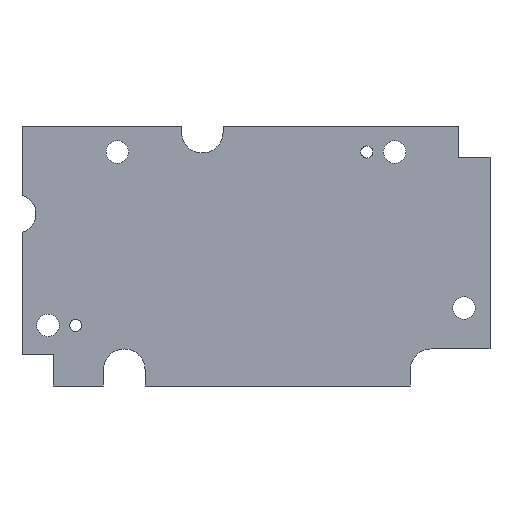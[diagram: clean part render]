
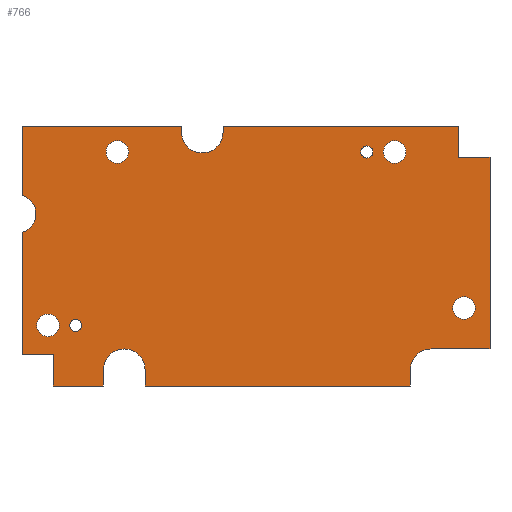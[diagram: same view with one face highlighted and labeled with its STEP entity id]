
A CAD part, front view. The second image highlights one B-rep face of the part: STEP entity #766.
In plain terms, the highlighted planar face has unit normal (0, -1, 0).
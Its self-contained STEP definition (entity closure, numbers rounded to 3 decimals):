
#137=CARTESIAN_POINT('',(-68.95,-2.,12.14));
#138=DIRECTION('',(0.,1.,0.));
#139=DIRECTION('',(0.264,0.,0.965));
#140=AXIS2_PLACEMENT_3D('',#137,#138,#139);
#147=DIRECTION('',(0.,0.,-1.));
#148=VECTOR('',#147,1.78);
#149=CARTESIAN_POINT('',(-21.5,-2.,37.5));
#150=LINE('',#149,#148);
#151=CARTESIAN_POINT('',(-15.5,-2.,35.72));
#152=DIRECTION('',(0.,-1.,0.));
#153=DIRECTION('',(-1.,0.,0.));
#154=AXIS2_PLACEMENT_3D('',#151,#152,#153);
#156=DIRECTION('',(0.,0.,-1.));
#157=VECTOR('',#156,9.);
#158=CARTESIAN_POINT('',(58.5,-2.,37.5));
#159=LINE('',#158,#157);
#160=DIRECTION('',(-1.,0.,0.));
#161=VECTOR('',#160,17.);
#162=CARTESIAN_POINT('',(67.5,-2.,-26.8));
#163=LINE('',#162,#161);
#164=CARTESIAN_POINT('',(50.5,-2.,-32.8));
#165=DIRECTION('',(0.,-1.,0.));
#166=DIRECTION('',(0.,0.,1.));
#167=AXIS2_PLACEMENT_3D('',#164,#165,#166);
#169=DIRECTION('',(0.,0.,1.));
#170=VECTOR('',#169,4.7);
#171=CARTESIAN_POINT('',(-32.,-2.,-37.5));
#172=LINE('',#171,#170);
#173=CARTESIAN_POINT('',(-38.,-2.,-32.8));
#174=DIRECTION('',(0.,-1.,0.));
#175=DIRECTION('',(1.,0.,0.));
#176=AXIS2_PLACEMENT_3D('',#173,#174,#175);
#178=DIRECTION('',(0.,0.,1.));
#179=VECTOR('',#178,9.);
#180=CARTESIAN_POINT('',(-58.5,-2.,-37.5));
#181=LINE('',#180,#179);
#182=CARTESIAN_POINT('',(40.,-2.,30.));
#183=DIRECTION('',(0.,1.,0.));
#184=DIRECTION('',(-1.,0.,0.));
#185=AXIS2_PLACEMENT_3D('',#182,#183,#184);
#187=CARTESIAN_POINT('',(40.,-2.,30.));
#188=DIRECTION('',(0.,1.,0.));
#189=DIRECTION('',(1.,0.,0.));
#190=AXIS2_PLACEMENT_3D('',#187,#188,#189);
#192=CARTESIAN_POINT('',(60.,-2.,-15.));
#193=DIRECTION('',(0.,1.,0.));
#194=DIRECTION('',(-1.,0.,0.));
#195=AXIS2_PLACEMENT_3D('',#192,#193,#194);
#197=CARTESIAN_POINT('',(60.,-2.,-15.));
#198=DIRECTION('',(0.,1.,0.));
#199=DIRECTION('',(1.,0.,0.));
#200=AXIS2_PLACEMENT_3D('',#197,#198,#199);
#202=CARTESIAN_POINT('',(-40.,-2.,30.));
#203=DIRECTION('',(0.,1.,0.));
#204=DIRECTION('',(-1.,0.,0.));
#205=AXIS2_PLACEMENT_3D('',#202,#203,#204);
#207=CARTESIAN_POINT('',(-40.,-2.,30.));
#208=DIRECTION('',(0.,1.,0.));
#209=DIRECTION('',(1.,0.,0.));
#210=AXIS2_PLACEMENT_3D('',#207,#208,#209);
#212=CARTESIAN_POINT('',(-60.,-2.,-20.));
#213=DIRECTION('',(0.,1.,0.));
#214=DIRECTION('',(-1.,0.,0.));
#215=AXIS2_PLACEMENT_3D('',#212,#213,#214);
#217=CARTESIAN_POINT('',(-60.,-2.,-20.));
#218=DIRECTION('',(0.,1.,0.));
#219=DIRECTION('',(1.,0.,0.));
#220=AXIS2_PLACEMENT_3D('',#217,#218,#219);
#222=CARTESIAN_POINT('',(32.,-2.,30.));
#223=DIRECTION('',(0.,1.,0.));
#224=DIRECTION('',(-1.,0.,0.));
#225=AXIS2_PLACEMENT_3D('',#222,#223,#224);
#227=CARTESIAN_POINT('',(32.,-2.,30.));
#228=DIRECTION('',(0.,1.,0.));
#229=DIRECTION('',(1.,0.,0.));
#230=AXIS2_PLACEMENT_3D('',#227,#228,#229);
#232=CARTESIAN_POINT('',(-52.,-2.,-20.));
#233=DIRECTION('',(0.,1.,0.));
#234=DIRECTION('',(-1.,0.,0.));
#235=AXIS2_PLACEMENT_3D('',#232,#233,#234);
#237=CARTESIAN_POINT('',(-52.,-2.,-20.));
#238=DIRECTION('',(0.,1.,0.));
#239=DIRECTION('',(1.,0.,0.));
#240=AXIS2_PLACEMENT_3D('',#237,#238,#239);
#250=DIRECTION('',(0.,0.,-1.));
#251=VECTOR('',#250,20.055);
#252=CARTESIAN_POINT('',(-67.5,-2.,37.5));
#253=LINE('',#252,#251);
#258=DIRECTION('',(-1.,0.,0.));
#259=VECTOR('',#258,46.);
#260=CARTESIAN_POINT('',(-21.5,-2.,37.5));
#261=LINE('',#260,#259);
#278=DIRECTION('',(0.,0.,-1.));
#279=VECTOR('',#278,1.78);
#280=CARTESIAN_POINT('',(-9.5,-2.,37.5));
#281=LINE('',#280,#279);
#286=DIRECTION('',(-1.,0.,0.));
#287=VECTOR('',#286,68.);
#288=CARTESIAN_POINT('',(58.5,-2.,37.5));
#289=LINE('',#288,#287);
#302=DIRECTION('',(-1.,0.,0.));
#303=VECTOR('',#302,9.);
#304=CARTESIAN_POINT('',(67.5,-2.,28.5));
#305=LINE('',#304,#303);
#310=DIRECTION('',(0.,0.,1.));
#311=VECTOR('',#310,55.3);
#312=CARTESIAN_POINT('',(67.5,-2.,-26.8));
#313=LINE('',#312,#311);
#330=DIRECTION('',(0.,0.,1.));
#331=VECTOR('',#330,4.7);
#332=CARTESIAN_POINT('',(44.5,-2.,-37.5));
#333=LINE('',#332,#331);
#338=DIRECTION('',(1.,0.,0.));
#339=VECTOR('',#338,76.5);
#340=CARTESIAN_POINT('',(-32.,-2.,-37.5));
#341=LINE('',#340,#339);
#358=DIRECTION('',(0.,0.,1.));
#359=VECTOR('',#358,4.7);
#360=CARTESIAN_POINT('',(-44.,-2.,-37.5));
#361=LINE('',#360,#359);
#366=DIRECTION('',(1.,0.,0.));
#367=VECTOR('',#366,14.5);
#368=CARTESIAN_POINT('',(-58.5,-2.,-37.5));
#369=LINE('',#368,#367);
#382=DIRECTION('',(1.,0.,0.));
#383=VECTOR('',#382,9.);
#384=CARTESIAN_POINT('',(-67.5,-2.,-28.5));
#385=LINE('',#384,#383);
#390=DIRECTION('',(0.,0.,-1.));
#391=VECTOR('',#390,35.335);
#392=CARTESIAN_POINT('',(-67.5,-2.,6.835));
#393=LINE('',#392,#391);
#480=CARTESIAN_POINT('',(50.5,-2.,-26.8));
#481=VERTEX_POINT('',#480);
#482=CARTESIAN_POINT('',(67.5,-2.,-26.8));
#483=VERTEX_POINT('',#482);
#484=CARTESIAN_POINT('',(44.5,-2.,-32.8));
#485=VERTEX_POINT('',#484);
#486=CARTESIAN_POINT('',(44.5,-2.,-37.5));
#487=VERTEX_POINT('',#486);
#488=CARTESIAN_POINT('',(-32.,-2.,-37.5));
#489=VERTEX_POINT('',#488);
#490=CARTESIAN_POINT('',(-32.,-2.,-32.8));
#491=VERTEX_POINT('',#490);
#492=CARTESIAN_POINT('',(-44.,-2.,-32.8));
#493=VERTEX_POINT('',#492);
#494=CARTESIAN_POINT('',(-44.,-2.,-37.5));
#495=VERTEX_POINT('',#494);
#496=CARTESIAN_POINT('',(-58.5,-2.,-37.5));
#497=VERTEX_POINT('',#496);
#498=CARTESIAN_POINT('',(-58.5,-2.,-28.5));
#499=VERTEX_POINT('',#498);
#500=CARTESIAN_POINT('',(-67.5,-2.,-28.5));
#501=VERTEX_POINT('',#500);
#502=CARTESIAN_POINT('',(-67.5,-2.,37.5));
#503=VERTEX_POINT('',#502);
#504=CARTESIAN_POINT('',(-21.5,-2.,37.5));
#505=VERTEX_POINT('',#504);
#506=CARTESIAN_POINT('',(-21.5,-2.,35.72));
#507=VERTEX_POINT('',#506);
#508=CARTESIAN_POINT('',(-9.5,-2.,35.72));
#509=VERTEX_POINT('',#508);
#510=CARTESIAN_POINT('',(-9.5,-2.,37.5));
#511=VERTEX_POINT('',#510);
#512=CARTESIAN_POINT('',(58.5,-2.,37.5));
#513=VERTEX_POINT('',#512);
#514=CARTESIAN_POINT('',(58.5,-2.,28.5));
#515=VERTEX_POINT('',#514);
#516=CARTESIAN_POINT('',(67.5,-2.,28.5));
#517=VERTEX_POINT('',#516);
#518=CARTESIAN_POINT('',(-67.5,-2.,6.835));
#520=VERTEX_POINT('',#518);
#522=CARTESIAN_POINT('',(-67.5,-2.,17.445));
#524=VERTEX_POINT('',#522);
#542=CARTESIAN_POINT('',(36.75,-2.,30.));
#543=CARTESIAN_POINT('',(43.25,-2.,30.));
#544=VERTEX_POINT('',#542);
#545=VERTEX_POINT('',#543);
#546=CARTESIAN_POINT('',(56.75,-2.,-15.));
#547=CARTESIAN_POINT('',(63.25,-2.,-15.));
#548=VERTEX_POINT('',#546);
#549=VERTEX_POINT('',#547);
#550=CARTESIAN_POINT('',(-43.25,-2.,30.));
#551=CARTESIAN_POINT('',(-36.75,-2.,30.));
#552=VERTEX_POINT('',#550);
#553=VERTEX_POINT('',#551);
#554=CARTESIAN_POINT('',(-63.25,-2.,-20.));
#555=CARTESIAN_POINT('',(-56.75,-2.,-20.));
#556=VERTEX_POINT('',#554);
#557=VERTEX_POINT('',#555);
#566=CARTESIAN_POINT('',(30.25,-2.,30.));
#567=CARTESIAN_POINT('',(33.75,-2.,30.));
#568=VERTEX_POINT('',#566);
#569=VERTEX_POINT('',#567);
#570=CARTESIAN_POINT('',(-53.75,-2.,-20.));
#571=CARTESIAN_POINT('',(-50.25,-2.,-20.));
#572=VERTEX_POINT('',#570);
#573=VERTEX_POINT('',#571);
#682=CARTESIAN_POINT('',(0.,-2.,0.));
#683=DIRECTION('',(0.,1.,0.));
#684=DIRECTION('',(1.,0.,0.));
#685=AXIS2_PLACEMENT_3D('',#682,#683,#684);
#686=PLANE('',#685);
#687=ORIENTED_EDGE('',*,*,#665,.F.);
#689=ORIENTED_EDGE('',*,*,#688,.F.);
#691=ORIENTED_EDGE('',*,*,#690,.F.);
#693=ORIENTED_EDGE('',*,*,#692,.T.);
#695=ORIENTED_EDGE('',*,*,#694,.T.);
#697=ORIENTED_EDGE('',*,*,#696,.F.);
#699=ORIENTED_EDGE('',*,*,#698,.F.);
#701=ORIENTED_EDGE('',*,*,#700,.T.);
#703=ORIENTED_EDGE('',*,*,#702,.F.);
#705=ORIENTED_EDGE('',*,*,#704,.F.);
#707=ORIENTED_EDGE('',*,*,#706,.T.);
#709=ORIENTED_EDGE('',*,*,#708,.T.);
#711=ORIENTED_EDGE('',*,*,#710,.F.);
#713=ORIENTED_EDGE('',*,*,#712,.F.);
#715=ORIENTED_EDGE('',*,*,#714,.T.);
#717=ORIENTED_EDGE('',*,*,#716,.T.);
#719=ORIENTED_EDGE('',*,*,#718,.F.);
#721=ORIENTED_EDGE('',*,*,#720,.F.);
#723=ORIENTED_EDGE('',*,*,#722,.T.);
#725=ORIENTED_EDGE('',*,*,#724,.F.);
#727=ORIENTED_EDGE('',*,*,#726,.F.);
#728=EDGE_LOOP('',(#687,#689,#691,#693,#695,#697,#699,#701,#703,#705,#707,#709,
#711,#713,#715,#717,#719,#721,#723,#725,#727));
#729=FACE_OUTER_BOUND('',#728,.F.);
#731=ORIENTED_EDGE('',*,*,#730,.F.);
#733=ORIENTED_EDGE('',*,*,#732,.F.);
#734=EDGE_LOOP('',(#731,#733));
#735=FACE_BOUND('',#734,.F.);
#737=ORIENTED_EDGE('',*,*,#736,.F.);
#739=ORIENTED_EDGE('',*,*,#738,.F.);
#740=EDGE_LOOP('',(#737,#739));
#741=FACE_BOUND('',#740,.F.);
#743=ORIENTED_EDGE('',*,*,#742,.F.);
#745=ORIENTED_EDGE('',*,*,#744,.F.);
#746=EDGE_LOOP('',(#743,#745));
#747=FACE_BOUND('',#746,.F.);
#749=ORIENTED_EDGE('',*,*,#748,.F.);
#751=ORIENTED_EDGE('',*,*,#750,.F.);
#752=EDGE_LOOP('',(#749,#751));
#753=FACE_BOUND('',#752,.F.);
#755=ORIENTED_EDGE('',*,*,#754,.F.);
#757=ORIENTED_EDGE('',*,*,#756,.F.);
#758=EDGE_LOOP('',(#755,#757));
#759=FACE_BOUND('',#758,.F.);
#761=ORIENTED_EDGE('',*,*,#760,.F.);
#763=ORIENTED_EDGE('',*,*,#762,.F.);
#764=EDGE_LOOP('',(#761,#763));
#765=FACE_BOUND('',#764,.F.);
#141=CIRCLE('',#140,5.5);
#155=CIRCLE('',#154,6.);
#168=CIRCLE('',#167,6.);
#177=CIRCLE('',#176,6.);
#186=CIRCLE('',#185,3.25);
#191=CIRCLE('',#190,3.25);
#196=CIRCLE('',#195,3.25);
#201=CIRCLE('',#200,3.25);
#206=CIRCLE('',#205,3.25);
#211=CIRCLE('',#210,3.25);
#216=CIRCLE('',#215,3.25);
#221=CIRCLE('',#220,3.25);
#226=CIRCLE('',#225,1.75);
#231=CIRCLE('',#230,1.75);
#236=CIRCLE('',#235,1.75);
#241=CIRCLE('',#240,1.75);
#665=EDGE_CURVE('',#524,#520,#141,.T.);
#688=EDGE_CURVE('',#503,#524,#253,.T.);
#690=EDGE_CURVE('',#505,#503,#261,.T.);
#692=EDGE_CURVE('',#505,#507,#150,.T.);
#694=EDGE_CURVE('',#507,#509,#155,.T.);
#696=EDGE_CURVE('',#511,#509,#281,.T.);
#698=EDGE_CURVE('',#513,#511,#289,.T.);
#700=EDGE_CURVE('',#513,#515,#159,.T.);
#702=EDGE_CURVE('',#517,#515,#305,.T.);
#704=EDGE_CURVE('',#483,#517,#313,.T.);
#706=EDGE_CURVE('',#483,#481,#163,.T.);
#708=EDGE_CURVE('',#481,#485,#168,.T.);
#710=EDGE_CURVE('',#487,#485,#333,.T.);
#712=EDGE_CURVE('',#489,#487,#341,.T.);
#714=EDGE_CURVE('',#489,#491,#172,.T.);
#716=EDGE_CURVE('',#491,#493,#177,.T.);
#718=EDGE_CURVE('',#495,#493,#361,.T.);
#720=EDGE_CURVE('',#497,#495,#369,.T.);
#722=EDGE_CURVE('',#497,#499,#181,.T.);
#724=EDGE_CURVE('',#501,#499,#385,.T.);
#726=EDGE_CURVE('',#520,#501,#393,.T.);
#730=EDGE_CURVE('',#544,#545,#186,.T.);
#732=EDGE_CURVE('',#545,#544,#191,.T.);
#736=EDGE_CURVE('',#548,#549,#196,.T.);
#738=EDGE_CURVE('',#549,#548,#201,.T.);
#742=EDGE_CURVE('',#552,#553,#206,.T.);
#744=EDGE_CURVE('',#553,#552,#211,.T.);
#748=EDGE_CURVE('',#556,#557,#216,.T.);
#750=EDGE_CURVE('',#557,#556,#221,.T.);
#754=EDGE_CURVE('',#568,#569,#226,.T.);
#756=EDGE_CURVE('',#569,#568,#231,.T.);
#760=EDGE_CURVE('',#572,#573,#236,.T.);
#762=EDGE_CURVE('',#573,#572,#241,.T.);
#766=ADVANCED_FACE('',(#729,#735,#741,#747,#753,#759,#765),#686,.F.);
